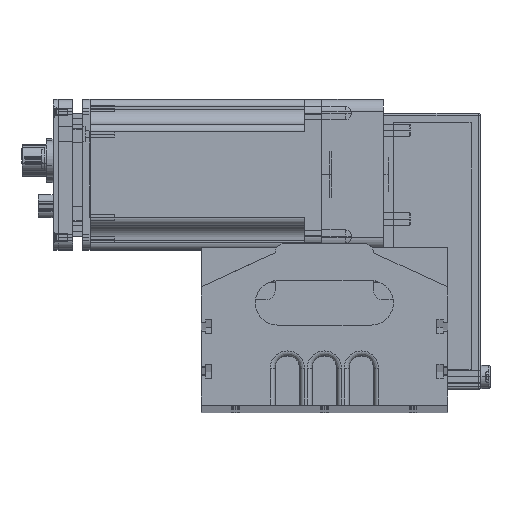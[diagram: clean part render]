
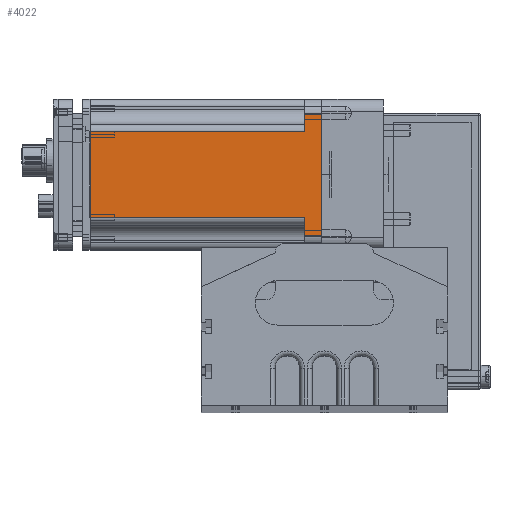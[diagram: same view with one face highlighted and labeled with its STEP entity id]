
A CAD part, top view. The second image highlights one B-rep face of the part: STEP entity #4022.
In plain terms, the highlighted planar face has unit normal (0, 0, 1).
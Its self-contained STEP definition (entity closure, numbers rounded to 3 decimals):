
#3931 = VERTEX_POINT ( 'NONE', #7926 ) ;
#3967 = EDGE_CURVE ( 'NONE', #31057, #3931, #7976, .T. ) ;
#3969 = EDGE_LOOP ( 'NONE', ( #4031, #4025, #4021, #4030, #4035, #4001, #4008, #4010 ) ) ;
#3974 = EDGE_CURVE ( 'NONE', #26894, #4014, #8021, .T. ) ;
#3999 = EDGE_CURVE ( 'NONE', #4018, #4002, #8063, .T. ) ;
#4001 = ORIENTED_EDGE ( 'NONE', *, *, #4012, .F. ) ;
#4002 = VERTEX_POINT ( 'NONE', #8069 ) ;
#4005 = EDGE_CURVE ( 'NONE', #3931, #4018, #8080, .T. ) ;
#4008 = ORIENTED_EDGE ( 'NONE', *, *, #3999, .F. ) ;
#4010 = ORIENTED_EDGE ( 'NONE', *, *, #4005, .F. ) ;
#4012 = EDGE_CURVE ( 'NONE', #4002, #4013, #8129, .T. ) ;
#4013 = VERTEX_POINT ( 'NONE', #8114 ) ;
#4014 = VERTEX_POINT ( 'NONE', #8116 ) ;
#4018 = VERTEX_POINT ( 'NONE', #8125 ) ;
#4021 = ORIENTED_EDGE ( 'NONE', *, *, #27525, .F. ) ;
#4022 = ADVANCED_FACE ( 'NONE', ( #8106 ), #8102, .F. ) ;
#4025 = ORIENTED_EDGE ( 'NONE', *, *, #31161, .F. ) ;
#4029 = EDGE_CURVE ( 'NONE', #4013, #4014, #8099, .T. ) ;
#4030 = ORIENTED_EDGE ( 'NONE', *, *, #3974, .T. ) ;
#4031 = ORIENTED_EDGE ( 'NONE', *, *, #3967, .F. ) ;
#4035 = ORIENTED_EDGE ( 'NONE', *, *, #4029, .F. ) ;
#7926 = CARTESIAN_POINT ( 'NONE',  ( -17.5, 94., 30.5 ) ) ;
#7976 = LINE ( 'NONE', #8025, #8024 ) ;
#8021 = LINE ( 'NONE', #8051, #8050 ) ;
#8023 = DIRECTION ( 'NONE',  ( 0., 1., 0. ) ) ;
#8024 = VECTOR ( 'NONE', #8023, 1000. ) ;
#8025 = CARTESIAN_POINT ( 'NONE',  ( -17.5, 7., 30.5 ) ) ;
#8049 = DIRECTION ( 'NONE',  ( 1., 0., 0. ) ) ;
#8050 = VECTOR ( 'NONE', #8049, 1000. ) ;
#8051 = CARTESIAN_POINT ( 'NONE',  ( -24.5, 0., 30.5 ) ) ;
#8060 = DIRECTION ( 'NONE',  ( 0., -1., 0. ) ) ;
#8061 = VECTOR ( 'NONE', #8060, 1000. ) ;
#8062 = CARTESIAN_POINT ( 'NONE',  ( 17.5, 95.35, 30.5 ) ) ;
#8063 = LINE ( 'NONE', #8062, #8061 ) ;
#8069 = CARTESIAN_POINT ( 'NONE',  ( 17.5, 7., 30.5 ) ) ;
#8080 = LINE ( 'NONE', #8123, #8118 ) ;
#8086 = VECTOR ( 'NONE', #8113, 1000. ) ;
#8092 = AXIS2_PLACEMENT_3D ( 'NONE', #8108, #8168, #8167 ) ;
#8099 = LINE ( 'NONE', #8152, #8151 ) ;
#8102 = PLANE ( 'NONE',  #8092 ) ;
#8106 = FACE_OUTER_BOUND ( 'NONE', #3969, .T. ) ;
#8108 = CARTESIAN_POINT ( 'NONE',  ( -24.5, 7., 30.5 ) ) ;
#8113 = DIRECTION ( 'NONE',  ( 1., 0., 0. ) ) ;
#8114 = CARTESIAN_POINT ( 'NONE',  ( 24.5, 7., 30.5 ) ) ;
#8116 = CARTESIAN_POINT ( 'NONE',  ( 24.5, 0., 30.5 ) ) ;
#8117 = DIRECTION ( 'NONE',  ( 1., 0., 0. ) ) ;
#8118 = VECTOR ( 'NONE', #8117, 1000. ) ;
#8123 = CARTESIAN_POINT ( 'NONE',  ( 26.5, 94., 30.5 ) ) ;
#8125 = CARTESIAN_POINT ( 'NONE',  ( 17.5, 94., 30.5 ) ) ;
#8128 = CARTESIAN_POINT ( 'NONE',  ( -24.5, 7., 30.5 ) ) ;
#8129 = LINE ( 'NONE', #8128, #8086 ) ;
#8150 = DIRECTION ( 'NONE',  ( 0., -1., 0. ) ) ;
#8151 = VECTOR ( 'NONE', #8150, 1000. ) ;
#8152 = CARTESIAN_POINT ( 'NONE',  ( 24.5, 7., 30.5 ) ) ;
#8167 = DIRECTION ( 'NONE',  ( -1., 0., 0. ) ) ;
#8168 = DIRECTION ( 'NONE',  ( 0., 0., -1. ) ) ;
#11683 = CARTESIAN_POINT ( 'NONE',  ( -24.5, 0., 30.5 ) ) ;
#11810 = LINE ( 'NONE', #11871, #11870 ) ;
#11869 = DIRECTION ( 'NONE',  ( 0., 1., 0. ) ) ;
#11870 = VECTOR ( 'NONE', #11869, 1000. ) ;
#11871 = CARTESIAN_POINT ( 'NONE',  ( -24.5, 7., 30.5 ) ) ;
#12493 = CARTESIAN_POINT ( 'NONE',  ( -17.5, 7., 30.5 ) ) ;
#12501 = CARTESIAN_POINT ( 'NONE',  ( -24.5, 7., 30.5 ) ) ;
#12681 = DIRECTION ( 'NONE',  ( 1., 0., 0. ) ) ;
#12682 = VECTOR ( 'NONE', #12681, 1000. ) ;
#12683 = CARTESIAN_POINT ( 'NONE',  ( -24.5, 7., 30.5 ) ) ;
#12684 = LINE ( 'NONE', #12683, #12682 ) ;
#26894 = VERTEX_POINT ( 'NONE', #11683 ) ;
#27525 = EDGE_CURVE ( 'NONE', #26894, #31059, #11810, .T. ) ;
#31057 = VERTEX_POINT ( 'NONE', #12493 ) ;
#31059 = VERTEX_POINT ( 'NONE', #12501 ) ;
#31161 = EDGE_CURVE ( 'NONE', #31059, #31057, #12684, .T. ) ;
